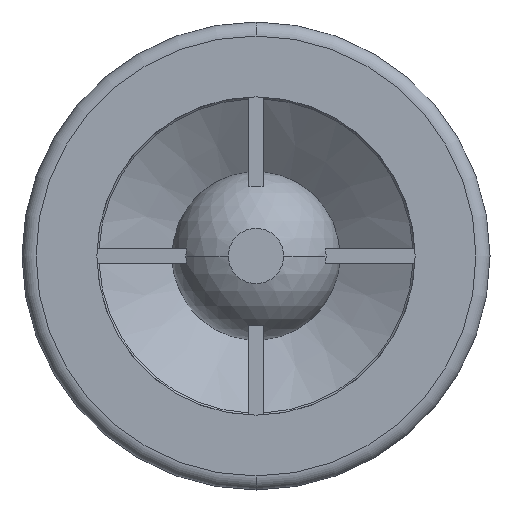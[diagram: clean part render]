
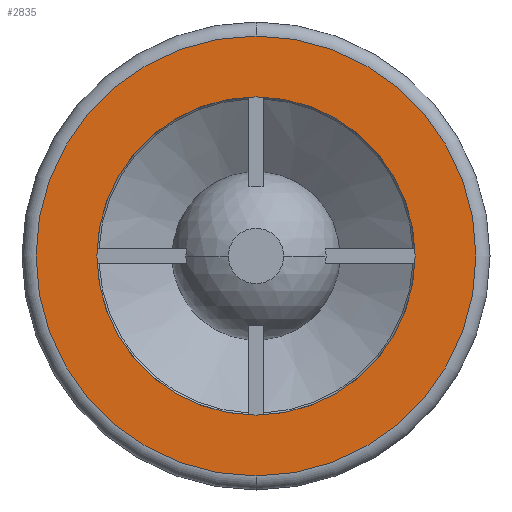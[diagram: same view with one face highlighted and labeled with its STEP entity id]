
A CAD part, front view. The second image highlights one B-rep face of the part: STEP entity #2835.
In plain terms, the highlighted planar face has unit normal (0, -1, 0).
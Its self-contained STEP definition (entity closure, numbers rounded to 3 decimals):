
#1101 = CARTESIAN_POINT ( 'NONE',  ( 0., 0., 17. ) ) ;
#1102 = DIRECTION ( 'NONE',  ( 0., 0., -1. ) ) ;
#1103 = DIRECTION ( 'NONE',  ( 0., -1., 0. ) ) ;
#1104 = CARTESIAN_POINT ( 'NONE',  ( 0., 0., 0. ) ) ;
#1105 = AXIS2_PLACEMENT_3D ( 'NONE', #1104, #1103, #1102 ) ;
#1106 = CIRCLE ( 'NONE', #1105, 17. ) ;
#1107 = CARTESIAN_POINT ( 'NONE',  ( 0., 0., -17. ) ) ;
#2430 = EDGE_CURVE ( 'NONE', #6901, #6904, #4648, .T. ) ;
#2813 = EDGE_CURVE ( 'NONE', #2814, #2815, #5349, .T. ) ;
#2814 = VERTEX_POINT ( 'NONE', #5341 ) ;
#2815 = VERTEX_POINT ( 'NONE', #5340 ) ;
#2835 = ADVANCED_FACE ( 'NONE', ( #5359, #5358 ), #4623, .F. ) ;
#2836 = EDGE_LOOP ( 'NONE', ( #2837, #2839 ) ) ;
#2837 = ORIENTED_EDGE ( 'NONE', *, *, #2838, .T. ) ;
#2838 = EDGE_CURVE ( 'NONE', #2815, #2814, #5415, .T. ) ;
#2839 = ORIENTED_EDGE ( 'NONE', *, *, #2813, .T. ) ;
#2840 = EDGE_LOOP ( 'NONE', ( #2841, #2842 ) ) ;
#2841 = ORIENTED_EDGE ( 'NONE', *, *, #2430, .F. ) ;
#2842 = ORIENTED_EDGE ( 'NONE', *, *, #6903, .F. ) ;
#4615 = DIRECTION ( 'NONE',  ( 0., 1., 0. ) ) ;
#4616 = AXIS2_PLACEMENT_3D ( 'NONE', #4622, #4615, #4857 ) ;
#4622 = CARTESIAN_POINT ( 'NONE',  ( -17., 0., 0. ) ) ;
#4623 = PLANE ( 'NONE',  #4616 ) ;
#4644 = DIRECTION ( 'NONE',  ( 0., 0., -1. ) ) ;
#4645 = DIRECTION ( 'NONE',  ( 0., -1., 0. ) ) ;
#4646 = CARTESIAN_POINT ( 'NONE',  ( 0., 0., 0. ) ) ;
#4647 = AXIS2_PLACEMENT_3D ( 'NONE', #4646, #4645, #4644 ) ;
#4648 = CIRCLE ( 'NONE', #4647, 17. ) ;
#4857 = DIRECTION ( 'NONE',  ( 0., 0., 1. ) ) ;
#5340 = CARTESIAN_POINT ( 'NONE',  ( 0., 0., 23.5 ) ) ;
#5341 = CARTESIAN_POINT ( 'NONE',  ( 0., 0., -23.5 ) ) ;
#5342 = DIRECTION ( 'NONE',  ( 0., 0., 1. ) ) ;
#5343 = DIRECTION ( 'NONE',  ( 0., -1., 0. ) ) ;
#5344 = CARTESIAN_POINT ( 'NONE',  ( 0., 0., 0. ) ) ;
#5345 = AXIS2_PLACEMENT_3D ( 'NONE', #5344, #5343, #5342 ) ;
#5349 = CIRCLE ( 'NONE', #5345, 23.5 ) ;
#5358 = FACE_BOUND ( 'NONE', #2840, .T. ) ;
#5359 = FACE_OUTER_BOUND ( 'NONE', #2836, .T. ) ;
#5411 = DIRECTION ( 'NONE',  ( 0., 0., 1. ) ) ;
#5412 = DIRECTION ( 'NONE',  ( 0., -1., 0. ) ) ;
#5413 = CARTESIAN_POINT ( 'NONE',  ( 0., 0., 0. ) ) ;
#5414 = AXIS2_PLACEMENT_3D ( 'NONE', #5413, #5412, #5411 ) ;
#5415 = CIRCLE ( 'NONE', #5414, 23.5 ) ;
#6901 = VERTEX_POINT ( 'NONE', #1107 ) ;
#6903 = EDGE_CURVE ( 'NONE', #6904, #6901, #1106, .T. ) ;
#6904 = VERTEX_POINT ( 'NONE', #1101 ) ;
